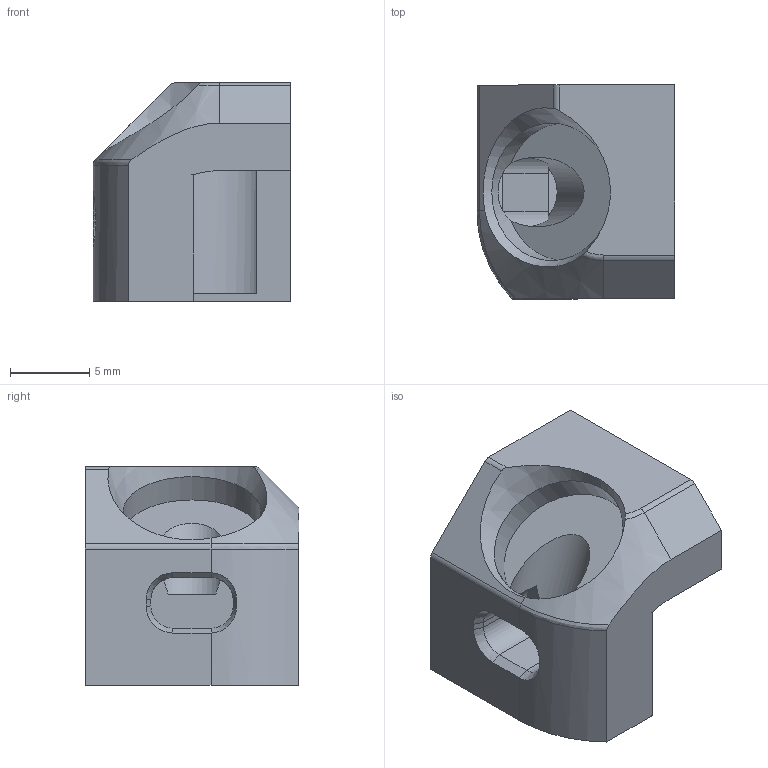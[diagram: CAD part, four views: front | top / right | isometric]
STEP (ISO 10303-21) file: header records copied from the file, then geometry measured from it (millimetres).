
FILE_DESCRIPTION(('Open CASCADE Model'),'2;1');
FILE_NAME('Open CASCADE Shape Model','2026-10-07T16:09:34',('Author'),( 'Open CASCADE'),'Open CASCADE STEP processor 7.9','Open CASCADE 7.9' ,'Unknown');
FILE_SCHEMA(('AUTOMOTIVE_DESIGN { 1 0 10303 214 1 1 1 1 }'));
Length unit declared in the file: millimetre
Products named in the file (1): Open CASCADE STEP translator 7.9 1
Bounding box: 12.5 x 13.5 x 13.8 mm (x, y, z)
Volume: 1408.8 mm3; surface area: 1189.6 mm2
Topology: 1 solids, 1 shells, 52 faces, 143 edges, 91 vertices
Faces by surface type: plane 30, cylinder 13, cone 7, torus 1, bspline 1
Full cylindrical faces by diameter (mm): 4.4 x1, 8.7 x1
Entity records: 4238 total; most frequent: CARTESIAN_POINT 1599, DIRECTION 431, ORIENTED_EDGE 286, PCURVE 286, DEFINITIONAL_REPRESENTATION 286, LINE 216, VECTOR 216, EDGE_CURVE 143
